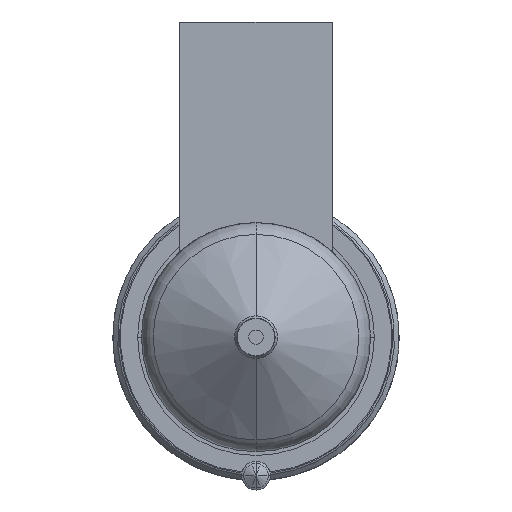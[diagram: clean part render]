
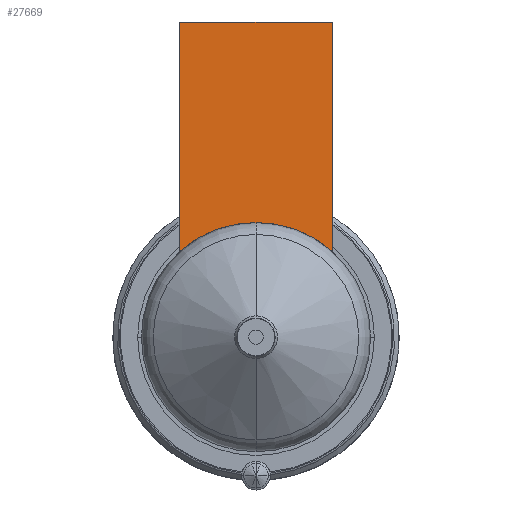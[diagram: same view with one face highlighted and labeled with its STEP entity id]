
A CAD part, front view. The second image highlights one B-rep face of the part: STEP entity #27669.
In plain terms, the highlighted planar face has unit normal (0, -1, 0).
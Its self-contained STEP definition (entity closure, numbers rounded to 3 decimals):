
#26981=DIRECTION('',(0.,0.,-1.));
#26982=VECTOR('',#26981,24.056);
#26983=CARTESIAN_POINT('',(-8.,-56.,33.));
#26984=LINE('',#26983,#26982);
#27021=DIRECTION('',(1.,0.,0.));
#27022=VECTOR('',#27021,16.);
#27023=CARTESIAN_POINT('',(-8.,-56.,33.));
#27024=LINE('',#27023,#27022);
#27028=CARTESIAN_POINT('',(0.,-56.,0.));
#27029=DIRECTION('',(0.,-1.,0.));
#27030=DIRECTION('',(0.667,0.,0.745));
#27031=AXIS2_PLACEMENT_3D('',#27028,#27029,#27030);
#27036=CARTESIAN_POINT('',(0.,-56.,0.));
#27037=DIRECTION('',(0.,-1.,0.));
#27038=DIRECTION('',(0.,0.,1.));
#27039=AXIS2_PLACEMENT_3D('',#27036,#27037,#27038);
#27072=DIRECTION('',(0.,0.,-1.));
#27073=VECTOR('',#27072,24.056);
#27074=CARTESIAN_POINT('',(8.,-56.,33.));
#27075=LINE('',#27074,#27073);
#27533=CARTESIAN_POINT('',(-8.,-56.,33.));
#27534=VERTEX_POINT('',#27533);
#27539=CARTESIAN_POINT('',(8.,-56.,33.));
#27540=VERTEX_POINT('',#27539);
#27543=CARTESIAN_POINT('',(-8.,-56.,8.944));
#27544=VERTEX_POINT('',#27543);
#27547=CARTESIAN_POINT('',(8.,-56.,8.944));
#27548=VERTEX_POINT('',#27547);
#27588=CARTESIAN_POINT('',(0.,-56.,12.));
#27589=VERTEX_POINT('',#27588);
#27654=CARTESIAN_POINT('',(-8.,-56.,33.));
#27655=DIRECTION('',(0.,-1.,0.));
#27656=DIRECTION('',(0.,0.,-1.));
#27657=AXIS2_PLACEMENT_3D('',#27654,#27655,#27656);
#27658=PLANE('',#27657);
#27659=ORIENTED_EDGE('',*,*,#27602,.F.);
#27661=ORIENTED_EDGE('',*,*,#27660,.T.);
#27663=ORIENTED_EDGE('',*,*,#27662,.T.);
#27665=ORIENTED_EDGE('',*,*,#27664,.T.);
#27666=ORIENTED_EDGE('',*,*,#27634,.T.);
#27667=EDGE_LOOP('',(#27659,#27661,#27663,#27665,#27666));
#27668=FACE_OUTER_BOUND('',#27667,.F.);
#27669=ADVANCED_FACE('',(#27668),#27658,.T.);
#27032=CIRCLE('',#27031,12.);
#27040=CIRCLE('',#27039,12.);
#27602=EDGE_CURVE('',#27534,#27544,#26984,.T.);
#27634=EDGE_CURVE('',#27589,#27544,#27040,.T.);
#27660=EDGE_CURVE('',#27534,#27540,#27024,.T.);
#27662=EDGE_CURVE('',#27540,#27548,#27075,.T.);
#27664=EDGE_CURVE('',#27548,#27589,#27032,.T.);
